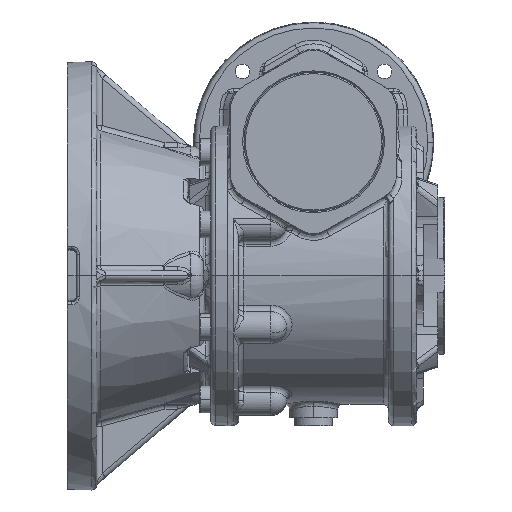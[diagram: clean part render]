
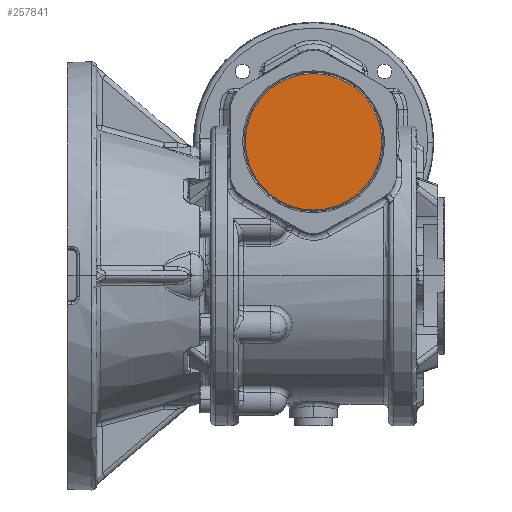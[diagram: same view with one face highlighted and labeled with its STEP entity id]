
A CAD part, top view. The second image highlights one B-rep face of the part: STEP entity #257841.
In plain terms, the highlighted planar face has unit normal (0, 0, 1).
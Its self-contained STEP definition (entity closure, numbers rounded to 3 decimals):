
#202261 = CARTESIAN_POINT ( 'NONE',  ( 3.467, 3.804, 65. ) ) ;
#202264 = CARTESIAN_POINT ( 'NONE',  ( 3.467, 54.804, 65. ) ) ;
#202268 = DIRECTION ( 'NONE',  ( 0., 1., 0. ) ) ;
#202271 = DIRECTION ( 'NONE',  ( 0., 0., -1. ) ) ;
#202274 = CARTESIAN_POINT ( 'NONE',  ( 3.467, 29.304, 65. ) ) ;
#202276 = AXIS2_PLACEMENT_3D ( 'NONE', #202274, #202271, #202268 ) ;
#202280 = CIRCLE ( 'NONE', #202276, 25.5 ) ;
#213795 = DIRECTION ( 'NONE',  ( 0., 0., -1. ) ) ;
#213798 = CARTESIAN_POINT ( 'NONE',  ( 3.467, 29.304, 65. ) ) ;
#213841 = DIRECTION ( 'NONE',  ( 0., 1., 0. ) ) ;
#213909 = AXIS2_PLACEMENT_3D ( 'NONE', #213798, #213795, #213841 ) ;
#214104 = CIRCLE ( 'NONE', #213909, 25.5 ) ;
#224565 = DIRECTION ( 'NONE',  ( 0., 0., 1. ) ) ;
#224567 = CARTESIAN_POINT ( 'NONE',  ( 3.467, 29.304, 65. ) ) ;
#224568 = AXIS2_PLACEMENT_3D ( 'NONE', #224567, #224565, #224623 ) ;
#224573 = PLANE ( 'NONE',  #224568 ) ;
#224578 = FACE_OUTER_BOUND ( 'NONE', #257844, .T. ) ;
#224623 = DIRECTION ( 'NONE',  ( 0., -1., 0. ) ) ;
#257235 = EDGE_CURVE ( 'NONE', #257238, #257243, #202280, .T. ) ;
#257238 = VERTEX_POINT ( 'NONE', #202264 ) ;
#257243 = VERTEX_POINT ( 'NONE', #202261 ) ;
#257824 = EDGE_CURVE ( 'NONE', #257243, #257238, #214104, .T. ) ;
#257841 = ADVANCED_FACE ( 'NONE', ( #224578 ), #224573, .T. ) ;
#257844 = EDGE_LOOP ( 'NONE', ( #257858, #257864 ) ) ;
#257858 = ORIENTED_EDGE ( 'NONE', *, *, #257235, .F. ) ;
#257864 = ORIENTED_EDGE ( 'NONE', *, *, #257824, .F. ) ;
